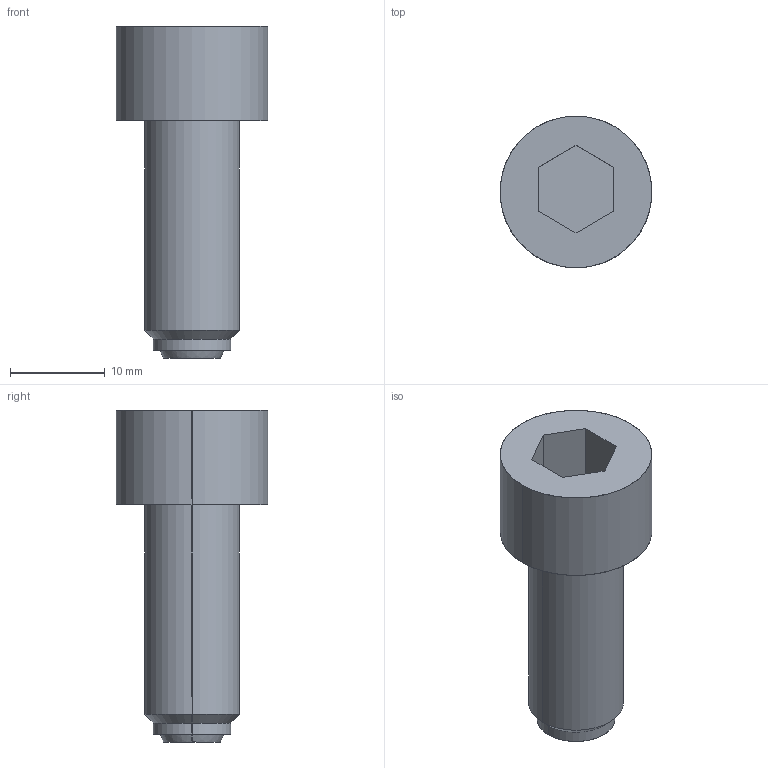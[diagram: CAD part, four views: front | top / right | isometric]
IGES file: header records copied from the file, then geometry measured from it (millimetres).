
Start section: SolidWorks IGES file using analytic representation for surfaces
Global section: file name: E:\新製品 作業用\14_SW2023(ver2023)\06_2025-07新製品(SME,WHS)\b\bcfn-s\@データ\bcfn10x25-s\BCFN10X25-S.IGS; native system: SolidWorks 2023; preprocessor: SolidWorks 2023; author: ykomura; date: 250423.142411; units: millimetre
Bounding box: 16 x 16 x 35 mm (x, y, z)
Surface area: 1859 mm2 (no closed solid volume)
Topology: 0 solids, 0 shells, 21 faces, 268 edges, 268 vertices
Faces by surface type: bspline 11, revolution 10
